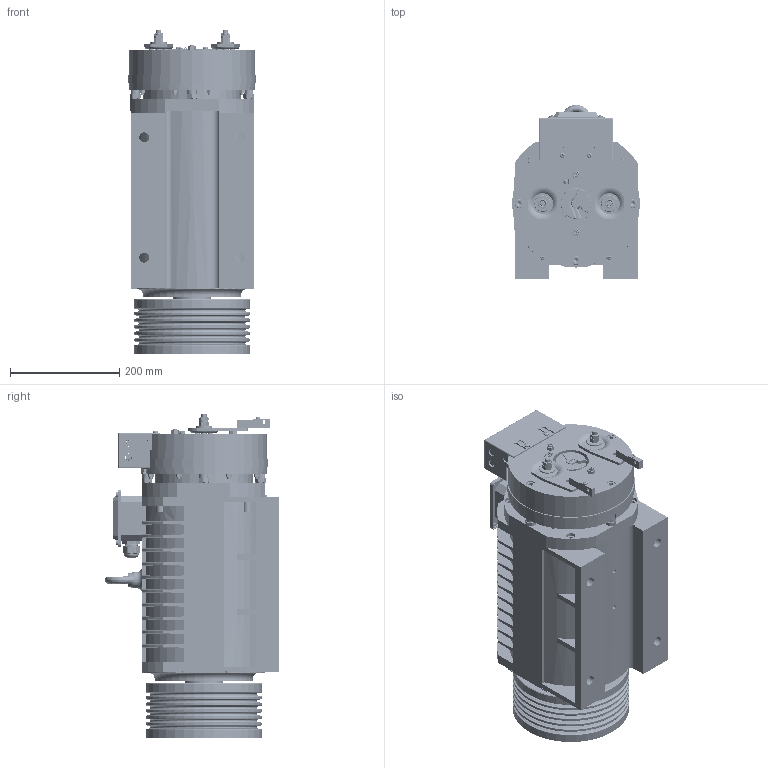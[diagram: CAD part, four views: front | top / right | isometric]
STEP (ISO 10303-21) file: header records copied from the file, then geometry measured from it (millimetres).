
FILE_DESCRIPTION (( 'STEP AP203' ), '1' );
FILE_NAME ('630kg-¦Õ210-6-6.5-U90-30(L1=220).STEP', '2025-10-09T01:50:59', ( '' ), ( '' ), 'SwSTEP 2.0', 'SolidWorks 2018', '' );
FILE_SCHEMA (( 'CONFIG_CONTROL_DESIGN' ));
Length unit declared in the file: millimetre
Products named in the file (64): 綴粣創囀裔; 1倰鞠褒蹟譫-GBT6170_M8; M392212001-MONA200滅鳥欶200Nm; SS_5_BASE; 十字槽盘头螺钉_H型-GBT818_M4X35; 十字槽盘头螺钉_H型-GBT818_M3X5; 组合件用弹簧垫圈-GBT9074.26_10; E-PC傷赽嘐隅釱; 都寞諉盄碟NS35絳寢; 内六角圆柱头螺钉-GBT70.1_M6X12; M323312003-MONA200侂掅唅蛌极郪璃200N; 十字槽盘头螺钉_H型-GBT818_M4X5; SS_5; M326001601-MONA200大垫片200N; 儂釱綴裔; 常规接线盒Y2-80铁皮接线盒底(IP55); 常规接线盒80接线盒; eyebolts gb_GB_FASTENER_SCREWS_FRS M12-N; 鞠褒芛蹟邡_C撰-GBT5780_M10X100; 六角头螺栓、弹簧垫圈和平垫圈组合件-GBT9074.17_M8X30; M500003763-放大杆（盘式）; 1倰鞠褒蹟譫-GBT6170_M10; 鞠褒芛蹟邡-GBT5783_M8X30; 内六角平端紧定螺钉-GBT77_M8X30; ﾊｮﾗﾖｲﾛﾅﾌﾍｷﾂﾝｶ､_Hﾐﾍ-GBT818_M5X6 ｶﾆﾐｿ; M325812002-MONA200絳砃蹟邡400N; 1倰鞠褒蹟譫-GBT6170_M5; SS_5_ACTUATOR; TBR-10; 十字槽盘头螺钉_H型-GBT818_M4X8; M500004332_180郪磁儂釱_210蜊粣創; deep groove ball bearings gb_Rolling bearings 6314 GB 276-94; cross recessed pan head screws gb_GB_CROSS_SCREWS_TYPE1 M5X6-6  H type-N; 1倰鞠褒蹟譫-GBT6170_M6; 内六角圆柱头螺钉-GBT70.1_M10X25; M310130082-曳引轮MONA180-210-6-6.5-90-30-12（L=100）; TBR-20; M24滅阨諉芛窪伎; M904201000-MONA200幗雄粣創詩紩200N; 鞠褒情蹟譫-GBT6172.1_M10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
Assembly tree (137 placements, depth 4):
  630kg-耳210-6-6.5-U90-30(L1=220)
    M500004332_180郪磁儂釱_210蜊粣創
    儂釱綴裔
    eyebolts gb_GB_FASTENER_SCREWS_FRS M12-N
    綴粣創囀裔
    粣芛揤啣
    deep groove ball bearings gb_Rolling bearings 6212 GB 276-94
    deep groove ball bearings gb_Rolling bearings 6314 GB 276-94
    M500004928-MONA180翋粣
    M250012001-MONA200秶雄ん郪璃200Nm
      M323212003-MONA200玴沺200N
      M250350002-MONA200价陬攫郪璃200N
      M323112003-MONA200萇棠沺200N
      M325812002-MONA200絳砃蹟邡400N  x4
      鞠褒芛蹟邡_C撰-GBT5780_M10X100  x2
      M904201000-MONA200幗雄粣創詩紩200N  x8
      M323312003-MONA200侂掅唅蛌极郪璃200N  x2
      M326001601-MONA200大垫片200N  x2
      组合件用弹簧垫圈-GBT9074.26_10  x2
      1倰鞠褒蹟譫-GBT6170_M10  x2
      鞠褒情蹟譫-GBT6172.1_M10  x2
      M323450601-MONA200欶裔200Nm
      ﾊｮﾗﾖｲﾛﾅﾌﾍｷﾂﾝｶ､_Hﾐﾍ-GBT818_M5X6 ｶﾆﾐｿ  x2
      内六角圆柱头螺钉-GBT70.1_M10X90  x4
      M402101601-MONA200R倰盄標200Nm
      十字槽盘头螺钉_H型-GBT818_M4X8  x3
      内六角平端紧定螺钉-GBT77_M6X20  x8
      1倰鞠褒蹟譫-GBT6170_M6  x8
      1倰鞠褒蹟譫-GBT6170_M8  x2
      内六角平端紧定螺钉-GBT77_M8X30  x2
      大垫圈_A级-GBT96.1_6  x2
      内六角圆柱头螺钉-GBT70.1_M6X12  x2
      M392212001-MONA200滅鳥欶200Nm
      M500003761-放大机构底座（盘式）  x2
      SS_5  x2
        SS_5_BASE
        SS_5_ACTUATOR
      M500003762-怢論穩隊  x2
      M500003763-放大杆（盘式）  x2
      六角头螺栓_全螺纹-GBT5783_M5X30  x2
      1倰鞠褒蹟譫-GBT6170_M5  x2
      十字槽盘头螺钉_H型-GBT818_M3X6  x8
      M390312002-耀輸盓殤
      十字槽盘头螺钉_H型-GBT818_M4X35  x2
      M402001615-萇埭耀輸MR-110H
    M400150001-漆肅犖1387晤鎢ん
    M310130082-曳引轮MONA180-210-6-6.5-90-30-12（L=100）
    六角头螺栓、弹簧垫圈和平垫圈组合件-GBT9074.17_M8X30  x3
      鞠褒芛蹟邡-GBT5783_M8X30
      组合件用弹簧垫圈-GBT9074.26_8
      组合件用平垫圈-GBT9074.24_8
    内六角圆柱头螺钉-GBT70.1_M10X25  x4
    常规接线盒80接线盒
      都寞諉盄碟NS35絳寢
      常规接线盒Y2-80铁皮接线盒底(IP55)
      常规接线盒Y2-80铁皮接线盒盖
      cross recessed pan head screws gb_GB_CROSS_SCREWS_TYPE1 M5X6-6  H type-N  x4
      M24滅阨諉芛窪伎
      E-PC傷赽嘐隅釱
      D-PC2.5傷赽傷啣
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Bounding box: 234 x 318.1 x 593 mm (x, y, z)
Volume: 12224418.4 mm3; surface area: 2182414.2 mm2
Topology: 167 solids, 168 shells, 5900 faces, 15758 edges, 10116 vertices
Faces by surface type: plane 2618, cylinder 2061, cone 649, torus 331, sphere 152, bspline 89
Entity records: 156774 total; most frequent: CARTESIAN_POINT 45020, ORIENTED_EDGE 21786, DIRECTION 21553, EDGE_CURVE 10893, AXIS2_PLACEMENT_3D 8153, VERTEX_POINT 7084, VECTOR 5247, LINE 5247
